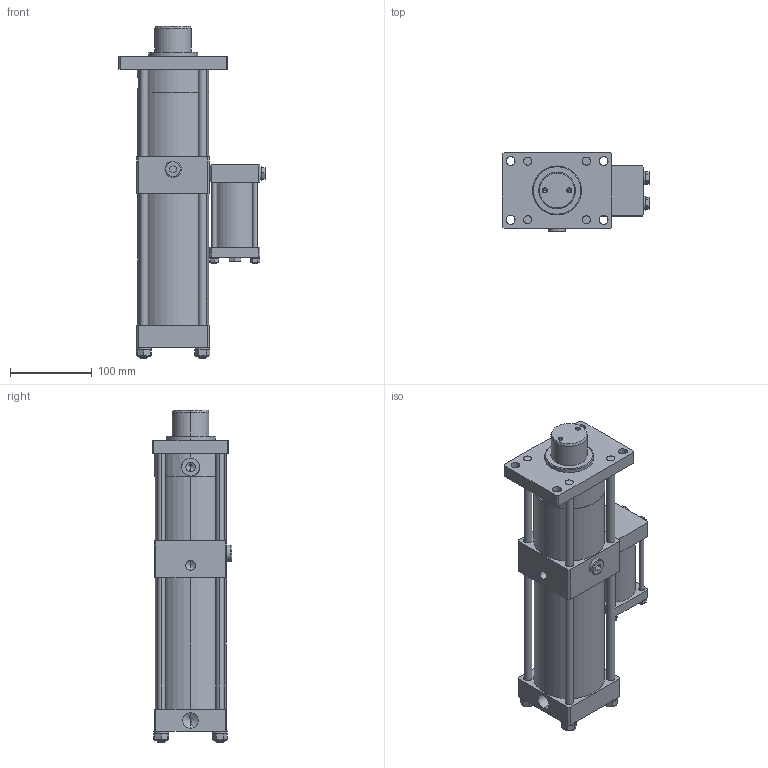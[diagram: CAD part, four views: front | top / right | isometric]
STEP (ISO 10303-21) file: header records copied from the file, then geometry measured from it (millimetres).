
FILE_DESCRIPTION (( 'STEP AP214' ), '1' );
FILE_NAME ('PCS3 8045 VC09.STEP', '2016-02-18T09:16:06', ( 'Admin' ), ( '' ), 'SwSTEP 2.0', 'SolidWorks 2015', '' );
FILE_SCHEMA (( 'AUTOMOTIVE_DESIGN' ));
Length unit declared in the file: millimetre
Products named in the file (8): hexagon nut style 1_is_IS 1364-3 - M6-W-N; spring lock washer 6735_is_IS 6735- 6; PCS3 8045 VC09_PCS3 8045 VC09; PCS3 8045 VC09; hexagon nut style 1_is_IS 1364-3 - M10-W-N; spring lock washer 3063_is_IS 3063- 10-A; hhb(grade a)_is_IS 1364 HHB(Grade A) - M8 x 40 x 22-N; plain washer (type a)_is_IS 2016 A- 9
Assembly tree (21 placements, depth 2):
  PCS3 8045 VC09
    PCS3 8045 VC09_PCS3 8045 VC09
    spring lock washer 6735_is_IS 6735- 6  x4
    hexagon nut style 1_is_IS 1364-3 - M6-W-N  x4
    plain washer (type a)_is_IS 2016 A- 9  x2
    hhb(grade a)_is_IS 1364 HHB(Grade A) - M8 x 40 x 22-N  x2
    spring lock washer 3063_is_IS 3063- 10-A  x4
    hexagon nut style 1_is_IS 1364-3 - M10-W-N  x4
Bounding box: 180.4 x 97.5 x 407 mm (x, y, z)
Volume: 2685624.8 mm3; surface area: 272446.7 mm2
Topology: 21 solids, 22 shells, 655 faces, 1511 edges, 923 vertices
Faces by surface type: plane 273, cylinder 200, cone 144, torus 38
Entity records: 11055 total; most frequent: CARTESIAN_POINT 2098, DIRECTION 1805, ORIENTED_EDGE 1606, EDGE_CURVE 803, AXIS2_PLACEMENT_3D 697, VERTEX_POINT 504, EDGE_LOOP 425, VECTOR 411
